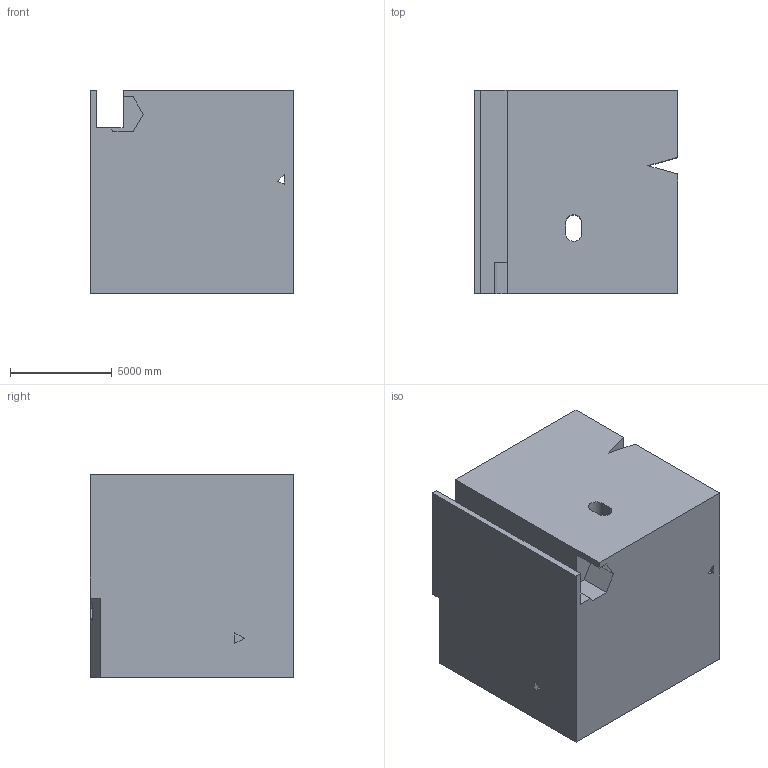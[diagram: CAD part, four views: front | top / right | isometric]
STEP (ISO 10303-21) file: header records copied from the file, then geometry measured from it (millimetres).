
FILE_DESCRIPTION (( 'STEP AP203' ), '1' );
FILE_NAME ('85.STEP', '2022-09-01T12:03:29', ( 'user' ), ( '' ), 'SwSTEP 2.0', 'SolidWorks 2021', '' );
FILE_SCHEMA (( 'CONFIG_CONTROL_DESIGN' ));
Length unit declared in the file: centimetre
Products named in the file (1): 85
Bounding box: 10000 x 10000 x 10000 mm (x, y, z)
Volume: 951448816311.3 mm3; surface area: 731908230.2 mm2
Topology: 1 solids, 1 shells, 42 faces, 114 edges, 76 vertices
Faces by surface type: plane 38, cylinder 4
Entity records: 1395 total; most frequent: CARTESIAN_POINT 233, ORIENTED_EDGE 228, DIRECTION 208, EDGE_CURVE 114, LINE 106, VECTOR 106, VERTEX_POINT 76, AXIS2_PLACEMENT_3D 51
